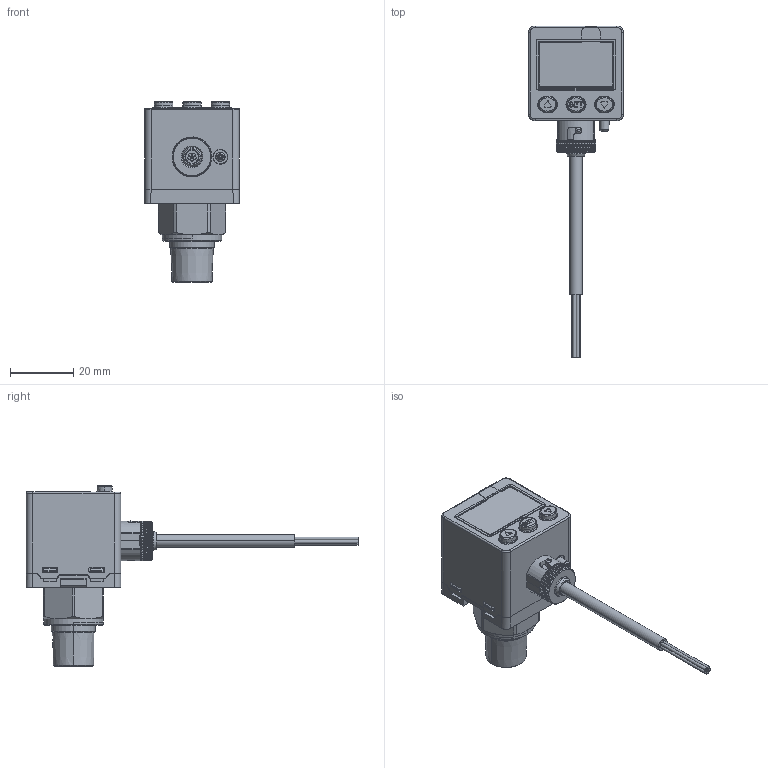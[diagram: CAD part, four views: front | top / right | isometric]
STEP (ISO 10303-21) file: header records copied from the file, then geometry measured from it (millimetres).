
FILE_DESCRIPTION((''),'2;1');
FILE_NAME('KP50E-F1C','2021-09-09T',('tommy'),(''),'CREO PARAMETRIC BY PTC INC, 2014500','CREO PARAMETRIC BY PTC INC, 2014500','');
FILE_SCHEMA(('CONFIG_CONTROL_DESIGN'));
Products named in the file (1): KP50E-F1C
Bounding box: 30.08 x 105.34 x 57.2 mm (x, y, z)
Volume: 21907.6 mm3; surface area: 22769 mm2
Topology: 2 solids, 24 shells, 2305 faces, 6077 edges, 3853 vertices
Faces by surface type: plane 973, cylinder 633, bspline 346, cone 241, torus 66, sphere 40, extrusion 6
Entity records: 108923 total; most frequent: CARTESIAN_POINT 56048, ORIENTED_EDGE 12150, DIRECTION 9134, EDGE_CURVE 6075, VERTEX_POINT 3853, VECTOR 3124, LINE 3118, AXIS2_PLACEMENT_3D 3005
